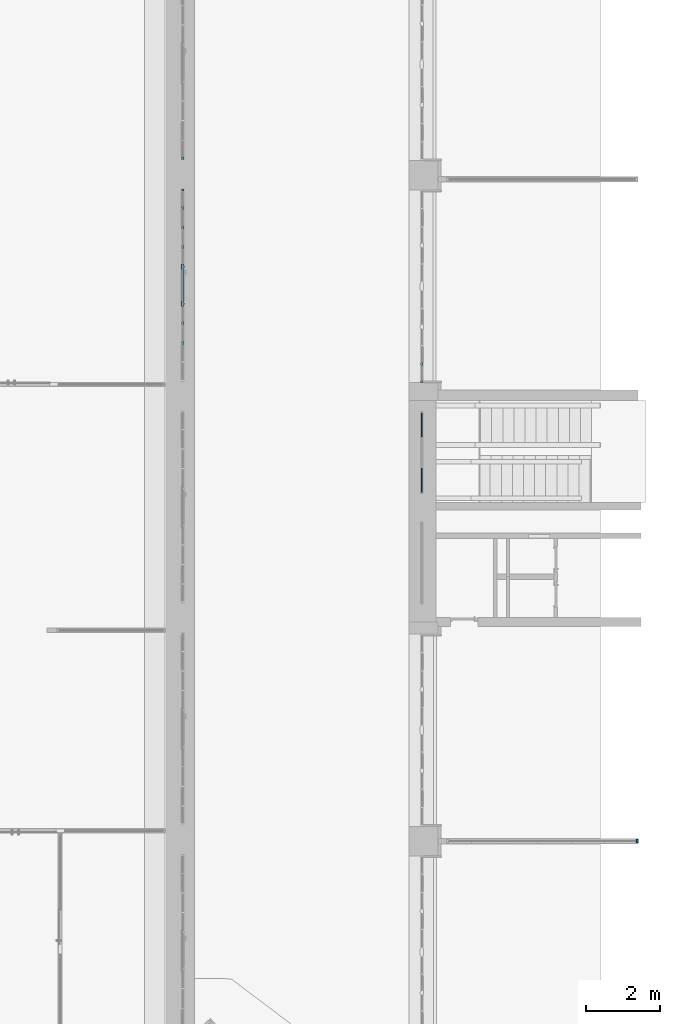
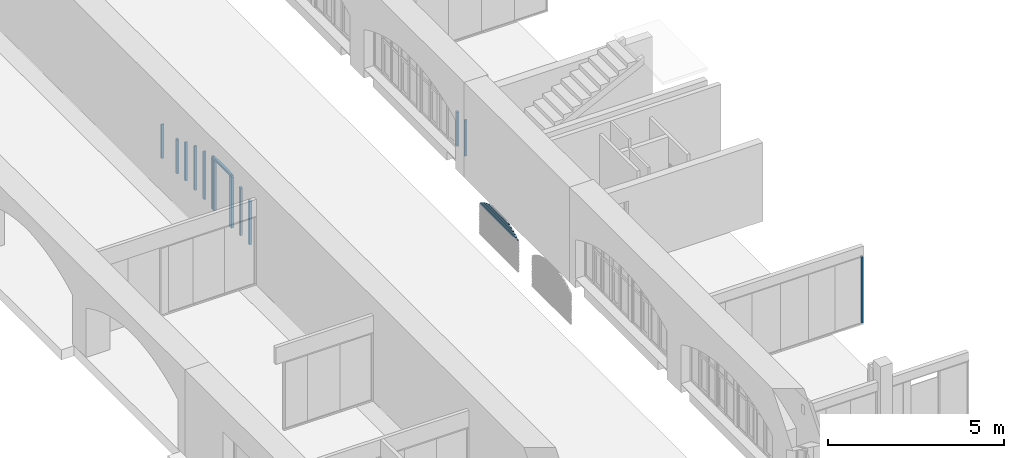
# One storey, part 10 of 88: 20 members, 5 elements without a shape of their own.
"""IFC2X3 building model written with IfcOpenShell, lengths in millimetres."""

from ifc_helpers import new_model, entity, si_unit, converted_unit, derived_unit, direction, frame, frame_2d, origin, origin_2d_with_axis, place, context, subcontext, project, spatial, polyline, circle_curve, parameter, trimmed, segment, composite_curve, rectangle, outline, extrude, source, transform, mapped, material, type_object, type_shapes, element, aggregate, save


model = new_model("IFC2X3")

# Units and contexts
model_context = context("Model", 3, precision=0.01, world=origin(), true_north=direction((6.123031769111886e-17, 1.0)))
body_context = subcontext(model_context, "Body", "Model", "MODEL_VIEW")
ifc_project = project(units=[si_unit("LENGTHUNIT", "METRE", prefix="MILLI"), si_unit("AREAUNIT", "SQUARE_METRE"), si_unit("VOLUMEUNIT", "CUBIC_METRE"), converted_unit("PLANEANGLEUNIT", "DEGREE", entity("IfcPlaneAngleMeasure", 0.017453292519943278), si_unit("PLANEANGLEUNIT", "RADIAN"), dimensions=[0, 0, 0, 0, 0, 0, 0]), si_unit("MASSUNIT", "GRAM", prefix="KILO"), derived_unit("MASSDENSITYUNIT", [(si_unit("MASSUNIT", "GRAM", prefix="KILO"), 1), (si_unit("LENGTHUNIT", "METRE"), -3)]), derived_unit("IONCONCENTRATIONUNIT", [(si_unit("MASSUNIT", "GRAM", prefix="KILO"), 1), (si_unit("LENGTHUNIT", "METRE"), -3)]), derived_unit("MOMENTOFINERTIAUNIT", [(si_unit("LENGTHUNIT", "METRE"), 4)]), si_unit("TIMEUNIT", "SECOND"), si_unit("FREQUENCYUNIT", "HERTZ"), si_unit("THERMODYNAMICTEMPERATUREUNIT", "DEGREE_CELSIUS"), derived_unit("THERMALTRANSMITTANCEUNIT", [(si_unit("MASSUNIT", "GRAM", prefix="KILO"), 1), (si_unit("THERMODYNAMICTEMPERATUREUNIT", "KELVIN"), -1), (si_unit("TIMEUNIT", "SECOND"), -3)]), derived_unit("THERMALCONDUCTANCEUNIT", [(si_unit("MASSUNIT", "GRAM", prefix="KILO"), 1), (si_unit("THERMODYNAMICTEMPERATUREUNIT", "KELVIN"), -1), (si_unit("TIMEUNIT", "SECOND"), -3), (si_unit("LENGTHUNIT", "METRE"), 1)]), derived_unit("VOLUMETRICFLOWRATEUNIT", [(si_unit("LENGTHUNIT", "METRE", prefix="DECI"), 3), (si_unit("TIMEUNIT", "SECOND"), -1)]), derived_unit("MASSFLOWRATEUNIT", [(si_unit("MASSUNIT", "GRAM", prefix="KILO"), 1), (si_unit("TIMEUNIT", "SECOND"), -1)]), derived_unit("ROTATIONALFREQUENCYUNIT", [(si_unit("TIMEUNIT", "SECOND"), -1)]), si_unit("ELECTRICCURRENTUNIT", "AMPERE"), si_unit("ELECTRICVOLTAGEUNIT", "VOLT"), si_unit("POWERUNIT", "WATT"), si_unit("FORCEUNIT", "NEWTON", prefix="KILO"), si_unit("ILLUMINANCEUNIT", "LUX"), si_unit("LUMINOUSFLUXUNIT", "LUMEN"), si_unit("LUMINOUSINTENSITYUNIT", "CANDELA"), si_unit("ENERGYUNIT", "JOULE"), derived_unit("USERDEFINED", [(si_unit("MASSUNIT", "GRAM", prefix="KILO"), -1), (si_unit("LENGTHUNIT", "METRE"), -2), (si_unit("TIMEUNIT", "SECOND"), 3), (si_unit("LUMINOUSFLUXUNIT", "LUMEN"), 1)]), derived_unit("USERDEFINED", [(si_unit("MASSUNIT", "GRAM", prefix="KILO"), 1), (si_unit("TIMEUNIT", "SECOND"), -3), (si_unit("LENGTHUNIT", "METRE"), 3), (si_unit("ELECTRICCURRENTUNIT", "AMPERE"), -2)]), derived_unit("SOUNDPOWERUNIT", [(si_unit("MASSUNIT", "GRAM", prefix="KILO"), 1), (si_unit("TIMEUNIT", "SECOND"), -3), (si_unit("LENGTHUNIT", "METRE"), 2)]), derived_unit("SOUNDPRESSUREUNIT", [(si_unit("MASSUNIT", "GRAM", prefix="KILO"), 1), (si_unit("LENGTHUNIT", "METRE"), -1), (si_unit("TIMEUNIT", "SECOND"), -2)]), derived_unit("LINEARVELOCITYUNIT", [(si_unit("LENGTHUNIT", "METRE"), 1), (si_unit("TIMEUNIT", "SECOND"), -1)]), si_unit("PRESSUREUNIT", "PASCAL"), derived_unit("USERDEFINED", [(si_unit("MASSUNIT", "GRAM", prefix="KILO"), 1), (si_unit("LENGTHUNIT", "METRE"), -2), (si_unit("TIMEUNIT", "SECOND"), -2)]), derived_unit("LINEARFORCEUNIT", [(si_unit("MASSUNIT", "GRAM", prefix="KILO"), 1), (si_unit("TIMEUNIT", "SECOND"), -2)]), derived_unit("PLANARFORCEUNIT", [(si_unit("MASSUNIT", "GRAM", prefix="KILO"), 1), (si_unit("LENGTHUNIT", "METRE"), -1), (si_unit("TIMEUNIT", "SECOND"), -2)]), derived_unit("SPECIFICHEATCAPACITYUNIT", [(si_unit("THERMODYNAMICTEMPERATUREUNIT", "KELVIN"), -1), (si_unit("LENGTHUNIT", "METRE"), 2), (si_unit("TIMEUNIT", "SECOND"), -2)]), derived_unit("HEATFLUXDENSITYUNIT", [(si_unit("MASSUNIT", "GRAM", prefix="KILO"), 1), (si_unit("TIMEUNIT", "SECOND"), -3)]), derived_unit("HEATINGVALUEUNIT", [(si_unit("LENGTHUNIT", "METRE"), 2), (si_unit("TIMEUNIT", "SECOND"), -2)]), derived_unit("VAPORPERMEABILITYUNIT", [(si_unit("LENGTHUNIT", "METRE"), -1), (si_unit("TIMEUNIT", "SECOND"), 1)]), derived_unit("DYNAMICVISCOSITYUNIT", [(si_unit("MASSUNIT", "GRAM", prefix="KILO"), 1), (si_unit("TIMEUNIT", "SECOND"), -1), (si_unit("LENGTHUNIT", "METRE"), -1)]), derived_unit("THERMALEXPANSIONCOEFFICIENTUNIT", [(si_unit("THERMODYNAMICTEMPERATUREUNIT", "KELVIN"), -1)]), derived_unit("MODULUSOFELASTICITYUNIT", [(si_unit("MASSUNIT", "GRAM", prefix="KILO"), 1), (si_unit("LENGTHUNIT", "METRE"), -1), (si_unit("TIMEUNIT", "SECOND"), -2)]), derived_unit("ISOTHERMALMOISTURECAPACITYUNIT", [(si_unit("MASSUNIT", "GRAM", prefix="KILO"), -1), (si_unit("LENGTHUNIT", "METRE"), 3)]), derived_unit("MOISTUREDIFFUSIVITYUNIT", [(si_unit("TIMEUNIT", "SECOND"), -1), (si_unit("LENGTHUNIT", "METRE"), 2)]), derived_unit("MASSPERLENGTHUNIT", [(si_unit("MASSUNIT", "GRAM", prefix="KILO"), 1), (si_unit("LENGTHUNIT", "METRE"), -1)]), derived_unit("THERMALRESISTANCEUNIT", [(si_unit("MASSUNIT", "GRAM", prefix="KILO"), -1), (si_unit("TIMEUNIT", "SECOND"), 3), (si_unit("THERMODYNAMICTEMPERATUREUNIT", "KELVIN"), 1)]), derived_unit("ACCELERATIONUNIT", [(si_unit("LENGTHUNIT", "METRE"), 1), (si_unit("TIMEUNIT", "SECOND"), -2)]), derived_unit("ANGULARVELOCITYUNIT", [(si_unit("TIMEUNIT", "SECOND"), -1), (si_unit("PLANEANGLEUNIT", "RADIAN"), 1)]), derived_unit("LINEARSTIFFNESSUNIT", [(si_unit("MASSUNIT", "GRAM", prefix="KILO"), 1), (si_unit("TIMEUNIT", "SECOND"), -2)]), derived_unit("WARPINGCONSTANTUNIT", [(si_unit("LENGTHUNIT", "METRE"), 6)]), derived_unit("LINEARMOMENTUNIT", [(si_unit("MASSUNIT", "GRAM", prefix="KILO"), 1), (si_unit("LENGTHUNIT", "METRE"), 1), (si_unit("TIMEUNIT", "SECOND"), -2)]), derived_unit("TORQUEUNIT", [(si_unit("MASSUNIT", "GRAM", prefix="KILO"), 1), (si_unit("LENGTHUNIT", "METRE"), 2), (si_unit("TIMEUNIT", "SECOND"), -2)])], contexts=[model_context])

# Site, building, storey
site_placement = place(None, origin())
site = spatial("IfcSite", under=ifc_project, at=site_placement, Name="Default", CompositionType="ELEMENT")
building_placement = place(site_placement, origin())
building = spatial("IfcBuilding", under=site, at=building_placement, Name="Eesti Rahvusraamatukogu hoone renoveerimise projekteerimistööd", CompositionType="ELEMENT")
storey_placement = place(building_placement, origin())
storey = spatial("IfcBuildingStorey", under=building, at=storey_placement, Name="1. korrus", CompositionType="ELEMENT", Elevation=0.0)

# Curtain wall, member
curtain_wall_type_1 = type_object("IfcCurtainWallType", Name="Curtain Wall:VLS Klaasvahesein profiilita 38db", PredefinedType="NOTDEFINED")
curtain_wall_1_placement = place(storey_placement, origin())
curtain_wall_1 = element("IfcCurtainWall", 1, at=curtain_wall_1_placement, inside=storey, type_object=curtain_wall_type_1, Name="Curtain Wall:VLS Klaasvahesein profiilita 38db", ObjectType="Curtain Wall:VLS Klaasvahesein profiilita 38db")
ifc_material_1 = material(Name="Aluminum")
member_type_1 = type_object("IfcMemberType", Name="Rectangular Mullion:50mm x 92mm", PredefinedType="MULLION", material=ifc_material_1)
shared_shape_1 = source(origin(), body_context, "Body", "SweptSolid", [
    extrude(rectangle(XDim=50.0, YDim=92.0, at=origin_2d_with_axis()), frame((-25.0, 0.0, -2300.0), z_axis=(0.0, 0.0, 1.0), x_axis=(-1.0, 0.0, 0.0)), (0.0, 0.0, 1.0), 2300.0),
])
type_shapes(member_type_1, [shared_shape_1])
member_1_placement = place(curtain_wall_1_placement, frame((-30590.0, 18390.0, 1700.0), z_axis=(0.0, 0.0, -1.0), x_axis=(1.0, 0.0, 0.0)))
member_1 = element("IfcMember", 2, at=member_1_placement, type_object=member_type_1, material=ifc_material_1, Name="Rectangular Mullion:50mm x 92mm", ObjectType="Rectangular Mullion:50mm x 92mm", context=body_context, shape_type="MappedRepresentation", body=[
    mapped(shared_shape_1, transform((0.0, 0.0, 0.0), scale=1.0)),
])
aggregate(curtain_wall_1, [member_1])

# Curtain wall, members
curtain_wall_type_2 = type_object("IfcCurtainWallType", Name="Curtain Wall:ol. olev MK vent. rest", PredefinedType="NOTDEFINED")
curtain_wall_2_placement = place(storey_placement, origin())
curtain_wall_2 = element("IfcCurtainWall", 3, at=curtain_wall_2_placement, inside=storey, type_object=curtain_wall_type_2, Name="Curtain Wall:ol. olev MK vent. rest", ObjectType="Curtain Wall:ol. olev MK vent. rest")
ifc_material_2 = material(Name="<Unnamed>")
member_type_2 = type_object("IfcMemberType", Name="Rectangular Mullion:30mm Square", PredefinedType="MULLION", material=ifc_material_2)
shared_shape_2 = source(origin(), body_context, "Body", "SweptSolid", [
    extrude(rectangle(XDim=30.0, YDim=30.0, at=origin_2d_with_axis()), frame((0.0, 0.0, -2134.9307516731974), z_axis=(0.0, 0.0, 1.0), x_axis=(-1.0, 0.0, 0.0)), (0.0, 0.0, 1.0), 2134.9307516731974),
])
type_shapes(member_type_2, [shared_shape_2])
member_2_placement = place(curtain_wall_2_placement, frame((-36445.0, 27830.146155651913, 855.0), z_axis=(0.0, -1.0, 0.0), x_axis=(0.0, 0.0, 1.0)))
member_2 = element("IfcMember", 4, at=member_2_placement, type_object=member_type_2, material=ifc_material_2, Name="Rectangular Mullion:30mm Square", ObjectType="Rectangular Mullion:30mm Square", context=body_context, shape_type="MappedRepresentation", body=[
    mapped(shared_shape_2, transform((0.0, 0.0, 0.0), scale=1.0)),
])
member_type_3 = type_object("IfcMemberType", Name="Rectangular Mullion:30mm Square", PredefinedType="MULLION", material=ifc_material_2)
shared_shape_3 = source(origin(), body_context, "Body", "SweptSolid", [
    extrude(rectangle(XDim=30.0, YDim=30.0, at=origin_2d_with_axis()), frame((0.0, 0.0, -1990.170376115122), z_axis=(0.0, 0.0, 1.0), x_axis=(-1.0, 0.0, 0.0)), (0.0, 0.0, 1.0), 1990.170376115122),
])
type_shapes(member_type_3, [shared_shape_3])
member_3_placement = place(curtain_wall_2_placement, frame((-36445.0, 27902.52634343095, 905.0), z_axis=(0.0, -1.0, 0.0), x_axis=(0.0, 0.0, 1.0)))
member_3 = element("IfcMember", 5, at=member_3_placement, type_object=member_type_3, material=ifc_material_2, Name="Rectangular Mullion:30mm Square", ObjectType="Rectangular Mullion:30mm Square", context=body_context, shape_type="MappedRepresentation", body=[
    mapped(shared_shape_3, transform((0.0, 0.0, 0.0), scale=1.0)),
])
member_type_4 = type_object("IfcMemberType", Name="Rectangular Mullion:30mm Square", PredefinedType="MULLION", material=ifc_material_2)
shared_shape_4 = source(origin(), body_context, "Body", "SweptSolid", [
    extrude(rectangle(XDim=30.0, YDim=30.0, at=origin_2d_with_axis()), frame((0.0, 0.0, -1828.5587049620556), z_axis=(0.0, 0.0, 1.0), x_axis=(-1.0, 0.0, 0.0)), (0.0, 0.0, 1.0), 1828.5587049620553),
])
type_shapes(member_type_4, [shared_shape_4])
member_4_placement = place(curtain_wall_2_placement, frame((-36445.0, 27983.332179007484, 955.0), z_axis=(0.0, -1.0, 0.0), x_axis=(0.0, 0.0, 1.0)))
member_4 = element("IfcMember", 6, at=member_4_placement, type_object=member_type_4, material=ifc_material_2, Name="Rectangular Mullion:30mm Square", ObjectType="Rectangular Mullion:30mm Square", context=body_context, shape_type="MappedRepresentation", body=[
    mapped(shared_shape_4, transform((0.0, 0.0, 0.0), scale=1.0)),
])
member_type_5 = type_object("IfcMemberType", Name="Rectangular Mullion:30mm Square", PredefinedType="MULLION", material=ifc_material_2)
shared_shape_5 = source(origin(), body_context, "Body", "SweptSolid", [
    extrude(rectangle(XDim=30.0, YDim=30.0, at=origin_2d_with_axis()), frame((0.0, 0.0, -1645.1370000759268), z_axis=(0.0, 0.0, 1.0), x_axis=(-1.0, 0.0, 0.0)), (0.0, 0.0, 1.0), 1645.1370000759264),
])
type_shapes(member_type_5, [shared_shape_5])
member_5_placement = place(curtain_wall_2_placement, frame((-36445.0, 28075.043031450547, 1005.0), z_axis=(0.0, -1.0, 0.0), x_axis=(0.0, 0.0, 1.0)))
member_5 = element("IfcMember", 7, at=member_5_placement, type_object=member_type_5, material=ifc_material_2, Name="Rectangular Mullion:30mm Square", ObjectType="Rectangular Mullion:30mm Square", context=body_context, shape_type="MappedRepresentation", body=[
    mapped(shared_shape_5, transform((0.0, 0.0, 0.0), scale=1.0)),
])
member_type_6 = type_object("IfcMemberType", Name="Rectangular Mullion:30mm Square", PredefinedType="MULLION", material=ifc_material_2)
shared_shape_6 = source(origin(), body_context, "Body", "SweptSolid", [
    extrude(rectangle(XDim=30.0, YDim=30.0, at=origin_2d_with_axis()), frame((0.0, 0.0, -1431.5462132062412), z_axis=(0.0, 0.0, 1.0), x_axis=(-1.0, 0.0, 0.0)), (0.0, 0.0, 1.0), 1431.5462132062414),
])
type_shapes(member_type_6, [shared_shape_6])
member_6_placement = place(curtain_wall_2_placement, frame((-36445.0, 28181.83842488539, 1055.0), z_axis=(0.0, -1.0, 0.0), x_axis=(0.0, 0.0, 1.0)))
member_6 = element("IfcMember", 8, at=member_6_placement, type_object=member_type_6, material=ifc_material_2, Name="Rectangular Mullion:30mm Square", ObjectType="Rectangular Mullion:30mm Square", context=body_context, shape_type="MappedRepresentation", body=[
    mapped(shared_shape_6, transform((0.0, 0.0, 0.0), scale=1.0)),
])
member_type_7 = type_object("IfcMemberType", Name="Rectangular Mullion:30mm Square", PredefinedType="MULLION", material=ifc_material_2)
shared_shape_7 = source(origin(), body_context, "Body", "SweptSolid", [
    extrude(rectangle(XDim=30.0, YDim=30.0, at=origin_2d_with_axis()), frame((0.0, 0.0, -1171.398041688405), z_axis=(0.0, 0.0, 1.0), x_axis=(-1.0, 0.0, 0.0)), (0.0, 0.0, 1.0), 1171.398041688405),
])
type_shapes(member_type_7, [shared_shape_7])
member_7_placement = place(curtain_wall_2_placement, frame((-36445.0, 28311.912510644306, 1105.0), z_axis=(0.0, -1.0, 0.0), x_axis=(0.0, 0.0, 1.0)))
member_7 = element("IfcMember", 9, at=member_7_placement, type_object=member_type_7, material=ifc_material_2, Name="Rectangular Mullion:30mm Square", ObjectType="Rectangular Mullion:30mm Square", context=body_context, shape_type="MappedRepresentation", body=[
    mapped(shared_shape_7, transform((0.0, 0.0, 0.0), scale=1.0)),
])
aggregate(curtain_wall_2, [member_2, member_3, member_4, member_5, member_6, member_7])

curtain_wall_type_3 = type_object("IfcCurtainWallType", Name="Curtain Wall:Ak-02", PredefinedType="NOTDEFINED")
curtain_wall_3_placement = place(storey_placement, origin())
curtain_wall_3 = element("IfcCurtainWall", 10, at=curtain_wall_3_placement, inside=storey, type_object=curtain_wall_type_3, Name="Curtain Wall:Ak-02", ObjectType="Curtain Wall:Ak-02")
ifc_material_3 = material(Name="LUMION_dark steel window frames")
member_type_8 = type_object("IfcMemberType", Name="Rectangular Mullion:NEW 80x70mm", PredefinedType="MULLION", material=ifc_material_3)
shared_shape_8 = source(origin(), body_context, "Body", "SweptSolid", [
    extrude(rectangle(XDim=80.0, YDim=70.0, at=frame_2d((0.0, 3.552713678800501e-15), x_axis=(1.0, 0.0))), frame((0.0, 0.0, -1190.0), z_axis=(0.0, 0.0, 1.0), x_axis=(-1.0, 0.0, 0.0)), (0.0, 0.0, 1.0), 1189.9999999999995),
])
type_shapes(member_type_8, [shared_shape_8])
member_8_placement = place(curtain_wall_3_placement, frame((-36440.0, 31290.0, 2040.0), z_axis=(0.0, 0.0, -1.0), x_axis=(0.0, -1.0, 0.0)))
member_8 = element("IfcMember", 11, at=member_8_placement, type_object=member_type_8, material=ifc_material_3, Name="Rectangular Mullion:NEW 80x70mm", ObjectType="Rectangular Mullion:NEW 80x70mm", context=body_context, shape_type="MappedRepresentation", body=[
    mapped(shared_shape_8, transform((0.0, 0.0, 0.0), scale=1.0)),
])
member_type_9 = type_object("IfcMemberType", Name="Rectangular Mullion:NEW 60x70mm", PredefinedType="MULLION", material=ifc_material_3)
shared_shape_9 = source(origin(), body_context, "Body", "SweptSolid", [
    extrude(rectangle(XDim=60.0, YDim=70.0, at=frame_2d((0.0, 3.552713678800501e-15), x_axis=(1.0, 0.0))), frame((-30.0, 0.0, -1250.0), z_axis=(0.0, 0.0, 1.0), x_axis=(-1.0, 0.0, 0.0)), (0.0, 0.0, 1.0), 1249.9999999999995),
])
type_shapes(member_type_9, [shared_shape_9])
member_9_placement = place(curtain_wall_3_placement, frame((-36440.0, 30790.0, 1980.0), z_axis=(0.0, 0.0, -1.0), x_axis=(0.0, -1.0, 0.0)))
member_9 = element("IfcMember", 12, at=member_9_placement, type_object=member_type_9, material=ifc_material_3, Name="Rectangular Mullion:NEW 60x70mm", ObjectType="Rectangular Mullion:NEW 60x70mm", context=body_context, shape_type="MappedRepresentation", body=[
    mapped(shared_shape_9, transform((0.0, 0.0, 0.0), scale=1.0)),
])
aggregate(curtain_wall_3, [member_8, member_9])

curtain_wall_type_4 = type_object("IfcCurtainWallType", Name="Curtain Wall:Ak-05", PredefinedType="NOTDEFINED")
curtain_wall_4_placement = place(storey_placement, origin())
curtain_wall_4 = element("IfcCurtainWall", 13, at=curtain_wall_4_placement, inside=storey, type_object=curtain_wall_type_4, Name="Curtain Wall:Ak-05", ObjectType="Curtain Wall:Ak-05")
member_type_10 = type_object("IfcMemberType", Name="Rectangular Mullion:NEW 60x70mm", PredefinedType="MULLION", material=ifc_material_3)
shared_shape_10 = source(origin(), body_context, "Body", "SweptSolid", [
    extrude(outline(composite_curve([segment(polyline([(-75.01710683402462, -495.2424237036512), (-15.017106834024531, -495.2424237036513)]), True, "CONTINUOUS"), segment(trimmed(circle_curve(frame_2d((5448.26345993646, -495.24242370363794), x_axis=(-0.9836101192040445, 0.1803084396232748)), 5463.280566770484), [parameter(3.5622212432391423e-13)], [parameter(10.387726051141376)], True, "PARAMETER"), False, "CONTINUOUS"), segment(polyline([(74.52541041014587, 489.83317051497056), (15.508803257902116, 500.65167689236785)]), True, "CONTINUOUS"), segment(trimmed(circle_curve(frame_2d((5448.26345993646, -495.24242370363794), x_axis=(-0.9836101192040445, 0.1803084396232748)), 5523.280566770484), [parameter(3.5622212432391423e-13)], [parameter(10.387726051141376)], True, "PARAMETER"), True, "CONTINUOUS")], self_intersect=False)), frame((-75.01710683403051, -35.0, -495.2424237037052), z_axis=(0.0, 1.0, 0.0), x_axis=(-0.9836101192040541, 0.0, 0.18030843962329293)), (0.0, 0.0, 1.0), 69.99999999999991),
])
type_shapes(member_type_10, [shared_shape_10])
member_10_placement = place(curtain_wall_4_placement, frame((-42905.0, 32925.0, 2327.321965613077), z_axis=(0.0, -0.9958941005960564, -0.09052591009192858), x_axis=(0.0, -0.09052591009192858, 0.9958941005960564)))
member_10 = element("IfcMember", 14, at=member_10_placement, type_object=member_type_10, material=ifc_material_3, Name="Rectangular Mullion:NEW 60x70mm", ObjectType="Rectangular Mullion:NEW 60x70mm", context=body_context, shape_type="MappedRepresentation", body=[
    mapped(shared_shape_10, transform((0.0, 0.0, 0.0), scale=1.0)),
])
member_type_11 = type_object("IfcMemberType", Name="Rectangular Mullion:NEW 150x90mm", PredefinedType="MULLION", material=ifc_material_3)
shared_shape_11 = source(origin(), body_context, "Body", "SweptSolid", [
    extrude(outline(polyline([(40.0, -20.0), (45.0, -20.0), (45.0, 20.0), (40.0, 20.0), (40.0, 75.0), (-40.0, 75.0), (-40.0, 20.0), (-45.0, 20.0), (-45.0, -20.0), (-40.0, -20.0), (-40.0, -75.0), (40.0, -75.0), (40.0, -20.0)])), frame((0.0, 0.0, -1760.0), z_axis=(0.0, 0.0, 1.0), x_axis=(0.0, -1.0, 0.0)), (0.0, 0.0, 1.0), 1759.9999999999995),
])
type_shapes(member_type_11, [shared_shape_11])
member_11_placement = place(curtain_wall_4_placement, frame((-42905.0, 33925.0, 500.0), z_axis=(0.0, 0.0, -1.0), x_axis=(0.0, -1.0, 0.0)))
member_11 = element("IfcMember", 15, at=member_11_placement, type_object=member_type_11, material=ifc_material_3, Name="Rectangular Mullion:NEW 150x90mm", ObjectType="Rectangular Mullion:NEW 150x90mm", context=body_context, shape_type="MappedRepresentation", body=[
    mapped(shared_shape_11, transform((0.0, 0.0, 0.0), scale=1.0)),
])
member_12_placement = place(curtain_wall_4_placement, frame((-42905.0, 32925.0, 500.0), z_axis=(0.0, 0.0, -1.0), x_axis=(0.0, -1.0, 0.0)))
member_12 = element("IfcMember", 16, at=member_12_placement, type_object=member_type_11, material=ifc_material_3, Name="Rectangular Mullion:NEW 150x90mm", ObjectType="Rectangular Mullion:NEW 150x90mm", context=body_context, shape_type="MappedRepresentation", body=[
    mapped(shared_shape_11, transform((0.0, 0.0, 0.0), scale=1.0)),
])

# Curtain wall, member
curtain_wall_5_placement = place(storey_placement, origin())
curtain_wall_5 = element("IfcCurtainWall", 17, at=curtain_wall_5_placement, inside=storey, type_object=curtain_wall_type_4, Name="Curtain Wall:Ak-05", ObjectType="Curtain Wall:Ak-05")
member_type_12 = type_object("IfcMemberType", Name="Rectangular Mullion:NEW 60x70mm", PredefinedType="MULLION", material=ifc_material_3)
shared_shape_12 = source(origin(), body_context, "Body", "SweptSolid", [
    extrude(outline(polyline([(-590.8870214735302, -30.0), (608.8836344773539, -30.0), (572.8904084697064, 30.0), (-590.8870214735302, 30.0), (-590.8870214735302, -30.0)])), frame((-30.0, -35.0, -590.8870214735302), z_axis=(0.0, 1.0, 0.0), x_axis=(0.0, 0.0, -1.0)), (0.0, 0.0, 1.0), 70.00000000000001),
])
type_shapes(member_type_12, [shared_shape_12])
member_13_placement = place(curtain_wall_5_placement, frame((-42905.0, 36825.0, 500.0), z_axis=(0.0, 0.0, -1.0), x_axis=(0.0, -1.0, 0.0)))
member_13 = element("IfcMember", 18, at=member_13_placement, type_object=member_type_12, material=ifc_material_3, Name="Rectangular Mullion:NEW 60x70mm", ObjectType="Rectangular Mullion:NEW 60x70mm", context=body_context, shape_type="MappedRepresentation", body=[
    mapped(shared_shape_12, transform((0.0, 0.0, 0.0), scale=1.0)),
])
aggregate(curtain_wall_5, [member_13])

# Member
member_type_13 = type_object("IfcMemberType", Name="Rectangular Mullion:NEW 60x70mm", PredefinedType="MULLION", material=ifc_material_3)
shared_shape_13 = source(origin(), body_context, "Body", "SweptSolid", [
    extrude(outline(polyline([(-608.8836344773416, -30.0), (590.8870214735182, -30.0), (590.8870214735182, 30.0), (-572.8904084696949, 30.0), (-608.8836344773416, -30.0)])), frame((-30.0, -35.0, -608.8836344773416), z_axis=(0.0, 1.0, 0.0), x_axis=(0.0, 0.0, -1.0)), (0.0, 0.0, 1.0), 70.00000000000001),
])
type_shapes(member_type_13, [shared_shape_13])
member_14_placement = place(curtain_wall_4_placement, frame((-42905.0, 36025.0, 1699.7706559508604), z_axis=(0.0, 0.0, 1.0), x_axis=(0.0, 1.0, 0.0)))
member_14 = element("IfcMember", 19, at=member_14_placement, type_object=member_type_13, material=ifc_material_3, Name="Rectangular Mullion:NEW 60x70mm", ObjectType="Rectangular Mullion:NEW 60x70mm", context=body_context, shape_type="MappedRepresentation", body=[
    mapped(shared_shape_13, transform((0.0, 0.0, 0.0), scale=1.0)),
])

member_type_14 = type_object("IfcMemberType", Name="Rectangular Mullion:NEW 60x70mm", PredefinedType="MULLION", material=ifc_material_3)
shared_shape_14 = source(origin(), body_context, "Body", "SweptSolid", [
    extrude(rectangle(XDim=60.0, YDim=70.0, at=frame_2d((0.0, -3.552713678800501e-15), x_axis=(1.0, 0.0))), frame((0.0, 0.0, -1150.0), z_axis=(0.0, 0.0, 1.0), x_axis=(-1.0, 0.0, 0.0)), (0.0, 0.0, 1.0), 1149.9999999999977),
])
type_shapes(member_type_14, [shared_shape_14])
member_15_placement = place(curtain_wall_4_placement, frame((-42905.0, 32850.0, 2290.0), z_axis=(0.0, -1.0, 0.0), x_axis=(0.0, 0.0, 1.0)))
member_15 = element("IfcMember", 20, at=member_15_placement, type_object=member_type_14, material=ifc_material_3, Name="Rectangular Mullion:NEW 60x70mm", ObjectType="Rectangular Mullion:NEW 60x70mm", context=body_context, shape_type="MappedRepresentation", body=[
    mapped(shared_shape_14, transform((0.0, 0.0, 0.0), scale=1.0)),
])

member_type_15 = type_object("IfcMemberType", Name="Rectangular Mullion:NEW 80x70mm", PredefinedType="MULLION", material=ifc_material_3)
shared_shape_15 = source(origin(), body_context, "Body", "SweptSolid", [
    extrude(outline(composite_curve([segment(polyline([(-914.4623251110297, -43.389290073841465), (595.9947117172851, -43.389290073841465)]), True, "CONTINUOUS"), segment(trimmed(circle_curve(frame_2d((-4627.7428918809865, 1556.6107099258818), x_axis=(0.9256428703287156, -0.37839830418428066)), 5463.280566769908), [parameter(5.204987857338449)], [parameter(5.828569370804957)], True, "PARAMETER"), True, "CONTINUOUS"), segment(trimmed(circle_curve(frame_2d((-4627.74289188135, 1556.6107099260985), x_axis=(0.9592847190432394, -0.28244083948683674)), 5463.280566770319), [parameter(0.0)], [parameter(0.25187197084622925)], True, "PARAMETER"), True, "CONTINUOUS"), segment(polyline([(619.8312668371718, 36.61070992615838), (-914.4623251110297, 36.610709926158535)]), True, "CONTINUOUS"), segment(polyline([(-914.4623251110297, 36.610709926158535), (-914.4623251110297, -43.389290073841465)]), True, "CONTINUOUS")], self_intersect=False)), frame((-3.389290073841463, -35.0, -914.4623251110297), z_axis=(0.0, 1.0, 0.0), x_axis=(0.0, 0.0, -1.0)), (0.0, 0.0, 1.0), 69.99999999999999),
])
type_shapes(member_type_15, [shared_shape_15])
member_16_placement = place(curtain_wall_4_placement, frame((-42905.0, 31865.0, 540.0), z_axis=(0.0, 0.0, -1.0), x_axis=(0.0, -1.0, 0.0)))
member_16 = element("IfcMember", 21, at=member_16_placement, type_object=member_type_15, material=ifc_material_3, Name="Rectangular Mullion:NEW 80x70mm", ObjectType="Rectangular Mullion:NEW 80x70mm", context=body_context, shape_type="MappedRepresentation", body=[
    mapped(shared_shape_15, transform((0.0, 0.0, 0.0), scale=1.0)),
])

member_type_16 = type_object("IfcMemberType", Name="Rectangular Mullion:NEW 80x70mm", PredefinedType="MULLION", material=ifc_material_3)
shared_shape_16 = source(origin(), body_context, "Body", "SweptSolid", [
    extrude(outline(composite_curve([segment(polyline([(-991.582057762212, -42.23780049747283), (652.61201854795, -42.23780049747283)]), True, "CONTINUOUS"), segment(trimmed(circle_curve(frame_2d((-4704.862624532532, 1027.7621995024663), x_axis=(0.9592847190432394, -0.28244083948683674)), 5463.280566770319), [parameter(5.111376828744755)], [parameter(5.658307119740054)], True, "PARAMETER"), True, "CONTINUOUS"), segment(trimmed(circle_curve(frame_2d((-4704.862624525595, 1027.7621995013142), x_axis=(0.9824581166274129, -0.18648337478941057)), 5463.2805667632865), [parameter(0.0)], [parameter(0.3073932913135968)], True, "PARAMETER"), True, "CONTINUOUS"), segment(polyline([(667.9703852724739, 37.76219950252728), (-991.582057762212, 37.76219950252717)]), True, "CONTINUOUS"), segment(polyline([(-991.582057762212, 37.76219950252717), (-991.582057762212, -42.23780049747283)]), True, "CONTINUOUS")], self_intersect=False)), frame((-2.237800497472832, -35.0, -991.582057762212), z_axis=(0.0, 1.0, 0.0), x_axis=(0.0, 0.0, -1.0)), (0.0, 0.0, 1.0), 70.00000000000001),
])
type_shapes(member_type_16, [shared_shape_16])
member_17_placement = place(curtain_wall_4_placement, frame((-42905.0, 32395.0, 540.0), z_axis=(0.0, 0.0, -1.0), x_axis=(0.0, -1.0, 0.0)))
member_17 = element("IfcMember", 22, at=member_17_placement, type_object=member_type_16, material=ifc_material_3, Name="Rectangular Mullion:NEW 80x70mm", ObjectType="Rectangular Mullion:NEW 80x70mm", context=body_context, shape_type="MappedRepresentation", body=[
    mapped(shared_shape_16, transform((0.0, 0.0, 0.0), scale=1.0)),
])

member_type_17 = type_object("IfcMemberType", Name="Rectangular Mullion:NEW 80x70mm", PredefinedType="MULLION", material=ifc_material_3)
shared_shape_17 = source(origin(), body_context, "Body", "SweptSolid", [
    extrude(outline(composite_curve([segment(polyline([(-991.5820577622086, -37.76219950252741), (667.9703852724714, -37.76219950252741)]), True, "CONTINUOUS"), segment(trimmed(circle_curve(frame_2d((-4704.862624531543, -1027.7621995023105), x_axis=(0.9891368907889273, 0.14699731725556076)), 5463.280566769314), [parameter(1.9872788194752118)], [parameter(2.294672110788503)], True, "PARAMETER"), True, "CONTINUOUS"), segment(trimmed(circle_curve(frame_2d((-4704.862624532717, -1027.7621995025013), x_axis=(0.9824581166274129, 0.18648337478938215)), 5463.280566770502), [parameter(0.0)], [parameter(0.546930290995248)], True, "PARAMETER"), True, "CONTINUOUS"), segment(polyline([(652.6120185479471, 42.23780049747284), (-991.5820577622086, 42.23780049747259)]), True, "CONTINUOUS"), segment(polyline([(-991.5820577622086, 42.23780049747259), (-991.5820577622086, -37.76219950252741)]), True, "CONTINUOUS")], self_intersect=False)), frame((2.237800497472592, -35.0, -991.5820577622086), z_axis=(0.0, 1.0, 0.0), x_axis=(0.0, 0.0, -1.0)), (0.0, 0.0, 1.0), 69.99999999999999),
])
type_shapes(member_type_17, [shared_shape_17])
member_18_placement = place(curtain_wall_4_placement, frame((-42905.0, 34455.0, 540.0), z_axis=(0.0, 0.0, -1.0), x_axis=(0.0, -1.0, 0.0)))
member_18 = element("IfcMember", 23, at=member_18_placement, type_object=member_type_17, material=ifc_material_3, Name="Rectangular Mullion:NEW 80x70mm", ObjectType="Rectangular Mullion:NEW 80x70mm", context=body_context, shape_type="MappedRepresentation", body=[
    mapped(shared_shape_17, transform((0.0, 0.0, 0.0), scale=1.0)),
])

member_type_18 = type_object("IfcMemberType", Name="Rectangular Mullion:NEW 80x70mm", PredefinedType="MULLION", material=ifc_material_3)
shared_shape_18 = source(origin(), body_context, "Body", "SweptSolid", [
    extrude(outline(composite_curve([segment(polyline([(-914.4623251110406, -36.610709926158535), (619.8312668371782, -36.610709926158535)]), True, "CONTINUOUS"), segment(trimmed(circle_curve(frame_2d((-4627.742891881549, -1556.6107099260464), x_axis=(0.9824581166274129, 0.18648337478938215)), 5463.280566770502), [parameter(5.406435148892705)], [parameter(5.658307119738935)], True, "PARAMETER"), True, "CONTINUOUS"), segment(trimmed(circle_curve(frame_2d((-4627.742891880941, -1556.6107099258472), x_axis=(0.9592847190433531, 0.28244083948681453)), 5463.280566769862), [parameter(0.0)], [parameter(0.6235815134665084)], True, "PARAMETER"), True, "CONTINUOUS"), segment(polyline([(595.9947117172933, 43.38929007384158), (-914.4623251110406, 43.389290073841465)]), True, "CONTINUOUS"), segment(polyline([(-914.4623251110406, 43.389290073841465), (-914.4623251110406, -36.610709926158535)]), True, "CONTINUOUS")], self_intersect=False)), frame((3.389290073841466, -35.0, -914.4623251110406), z_axis=(0.0, 1.0, 0.0), x_axis=(0.0, 0.0, -1.0)), (0.0, 0.0, 1.0), 69.99999999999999),
])
type_shapes(member_type_18, [shared_shape_18])
member_19_placement = place(curtain_wall_4_placement, frame((-42905.0, 34985.0, 540.0), z_axis=(0.0, 0.0, -1.0), x_axis=(0.0, -1.0, 0.0)))
member_19 = element("IfcMember", 24, at=member_19_placement, type_object=member_type_18, material=ifc_material_3, Name="Rectangular Mullion:NEW 80x70mm", ObjectType="Rectangular Mullion:NEW 80x70mm", context=body_context, shape_type="MappedRepresentation", body=[
    mapped(shared_shape_18, transform((0.0, 0.0, 0.0), scale=1.0)),
])

member_type_19 = type_object("IfcMemberType", Name="Rectangular Mullion:NEW 80x70mm", PredefinedType="MULLION", material=ifc_material_3)
shared_shape_19 = source(origin(), body_context, "Body", "SweptSolid", [
    extrude(outline(composite_curve([segment(polyline([(-802.4490834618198, -35.45922034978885), (548.3531444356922, -35.45922034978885)]), True, "CONTINUOUS"), segment(trimmed(circle_curve(frame_2d((-4515.72965023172, -2085.459220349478), x_axis=(0.9592847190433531, 0.28244083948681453)), 5463.280566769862), [parameter(5.63274287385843)], [parameter(5.828569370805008)], True, "PARAMETER"), True, "CONTINUOUS"), segment(trimmed(circle_curve(frame_2d((-4515.729650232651, -2085.4592203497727), x_axis=(0.9256428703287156, 0.37839830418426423)), 5463.280566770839), [parameter(0.0)], [parameter(0.7122563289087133)], True, "PARAMETER"), True, "CONTINUOUS"), segment(polyline([(515.2279674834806, 44.54077965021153), (-802.4490834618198, 44.54077965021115)]), True, "CONTINUOUS"), segment(polyline([(-802.4490834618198, 44.54077965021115), (-802.4490834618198, -35.45922034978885)]), True, "CONTINUOUS")], self_intersect=False)), frame((4.540779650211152, -35.0, -802.4490834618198), z_axis=(0.0, 1.0, 0.0), x_axis=(0.0, 0.0, -1.0)), (0.0, 0.0, 1.0), 70.00000000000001),
])
type_shapes(member_type_19, [shared_shape_19])
member_20_placement = place(curtain_wall_4_placement, frame((-42905.0, 35515.0, 540.0), z_axis=(0.0, 0.0, -1.0), x_axis=(0.0, -1.0, 0.0)))
member_20 = element("IfcMember", 25, at=member_20_placement, type_object=member_type_19, material=ifc_material_3, Name="Rectangular Mullion:NEW 80x70mm", ObjectType="Rectangular Mullion:NEW 80x70mm", context=body_context, shape_type="MappedRepresentation", body=[
    mapped(shared_shape_19, transform((0.0, 0.0, 0.0), scale=1.0)),
])

aggregate(curtain_wall_4, [member_10, member_11, member_12, member_14, member_15, member_16, member_17, member_18, member_19, member_20])

save(model, "model.ifc")
